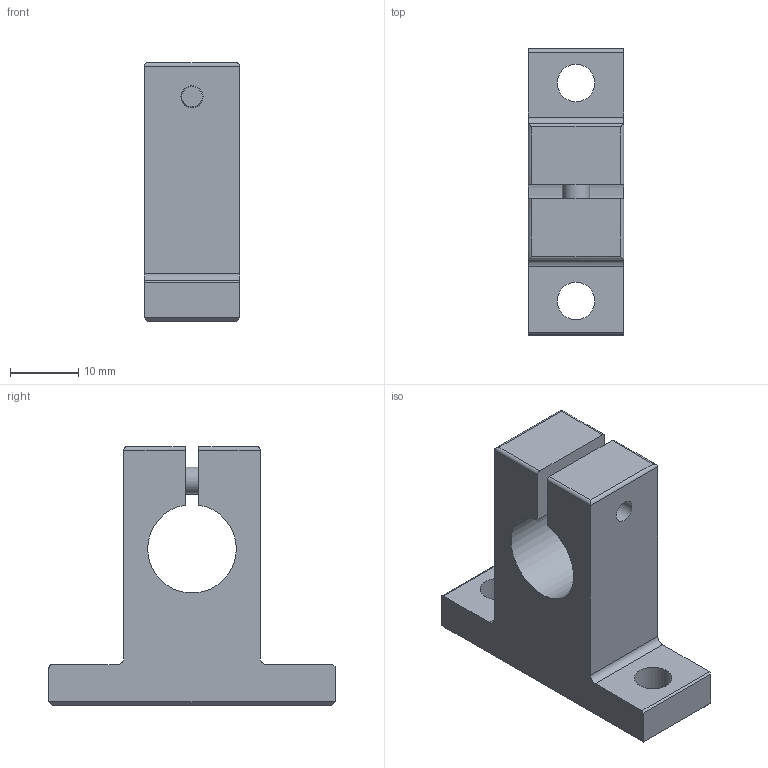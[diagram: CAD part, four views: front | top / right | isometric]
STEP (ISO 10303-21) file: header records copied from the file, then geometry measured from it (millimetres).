
FILE_DESCRIPTION((''),'2;1');
FILE_NAME('D:\製品 (図面)\カタログ用3D\シャフトブロック関連\STEP形式\SBA\SBA13.stp','2010-06-01T16:21:41',('Tsuchiya'),(''),'Autodesk Inventor 10','Autodesk Inventor 10','');
FILE_SCHEMA(('AUTOMOTIVE_DESIGN { 1 0 10303 214 1 1 1 1 }'));
Length unit declared in the file: millimetre
Products named in the file (1): SBA13
Bounding box: 14 x 42 x 38 mm (x, y, z)
Volume: 9983.4 mm3; surface area: 4908 mm2
Topology: 1 solids, 1 shells, 48 faces, 119 edges, 77 vertices
Faces by surface type: plane 27, cylinder 14, bspline 4, cone 2, torus 1
Full cylindrical faces by diameter (mm): 4 x1, 5.5 x2, 7 x1
Entity records: 1392 total; most frequent: CARTESIAN_POINT 291, DIRECTION 220, ORIENTED_EDGE 208, EDGE_CURVE 104, AXIS2_PLACEMENT_3D 77, VERTEX_POINT 72, EDGE_LOOP 68, VECTOR 66
